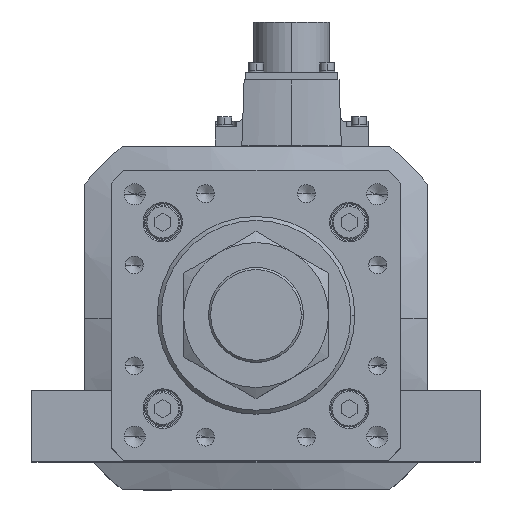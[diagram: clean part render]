
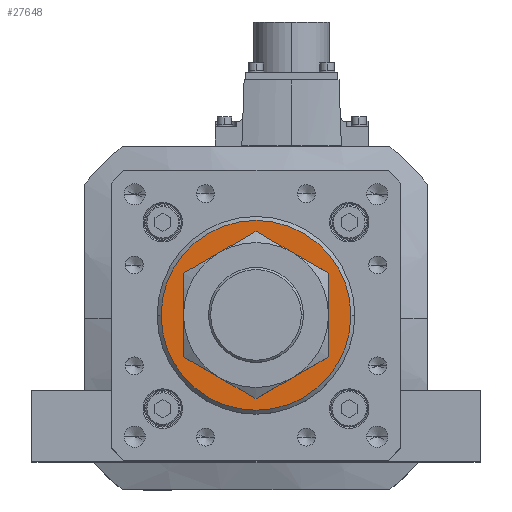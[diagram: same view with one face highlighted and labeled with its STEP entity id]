
A CAD part, top view. The second image highlights one B-rep face of the part: STEP entity #27648.
In plain terms, the highlighted planar face has unit normal (0, 0, 1).
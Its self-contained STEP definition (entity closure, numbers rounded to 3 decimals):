
#1883 = AXIS2_PLACEMENT_3D ( 'NONE', #18810, #4151, #12833 ) ;
#2477 = EDGE_CURVE ( 'NONE', #18252, #29847, #23302, .T. ) ;
#3389 = CARTESIAN_POINT ( 'NONE',  ( 0., 0., 346. ) ) ;
#4151 = DIRECTION ( 'NONE',  ( 0., 0., 1. ) ) ;
#5309 = EDGE_LOOP ( 'NONE', ( #25981, #28140 ) ) ;
#6705 = AXIS2_PLACEMENT_3D ( 'NONE', #3389, #30119, #32705 ) ;
#7118 = FACE_OUTER_BOUND ( 'NONE', #5309, .T. ) ;
#9015 = EDGE_LOOP ( 'NONE', ( #34753, #22928 ) ) ;
#11152 = CIRCLE ( 'NONE', #1883, 36. ) ;
#11172 = VERTEX_POINT ( 'NONE', #11717 ) ;
#11453 = CARTESIAN_POINT ( 'NONE',  ( 23., 0., 346. ) ) ;
#11717 = CARTESIAN_POINT ( 'NONE',  ( -36., 0., 346. ) ) ;
#12833 = DIRECTION ( 'NONE',  ( 1., 0., 0. ) ) ;
#13364 = DIRECTION ( 'NONE',  ( 1., 0., 0. ) ) ;
#14859 = VERTEX_POINT ( 'NONE', #29777 ) ;
#16081 = CARTESIAN_POINT ( 'NONE',  ( 0., 0., 346. ) ) ;
#18252 = VERTEX_POINT ( 'NONE', #20699 ) ;
#18810 = CARTESIAN_POINT ( 'NONE',  ( 0., 0., 346. ) ) ;
#19426 = DIRECTION ( 'NONE',  ( 1., 0., 0. ) ) ;
#20699 = CARTESIAN_POINT ( 'NONE',  ( -23., 0., 346. ) ) ;
#20792 = DIRECTION ( 'NONE',  ( 0., 0., 1. ) ) ;
#22525 = DIRECTION ( 'NONE',  ( 0., 0., -1. ) ) ;
#22928 = ORIENTED_EDGE ( 'NONE', *, *, #2477, .T. ) ;
#23121 = EDGE_CURVE ( 'NONE', #11172, #14859, #11152, .T. ) ;
#23302 = CIRCLE ( 'NONE', #34672, 23. ) ;
#23650 = CARTESIAN_POINT ( 'NONE',  ( 0., 0., 346. ) ) ;
#25820 = EDGE_CURVE ( 'NONE', #29847, #18252, #34137, .T. ) ;
#25981 = ORIENTED_EDGE ( 'NONE', *, *, #23121, .T. ) ;
#26178 = AXIS2_PLACEMENT_3D ( 'NONE', #23650, #20792, #38146 ) ;
#26364 = AXIS2_PLACEMENT_3D ( 'NONE', #34196, #22525, #19426 ) ;
#27073 = FACE_BOUND ( 'NONE', #9015, .T. ) ;
#27648 = ADVANCED_FACE ( 'NONE', ( #27073, #7118 ), #29394, .T. ) ;
#28140 = ORIENTED_EDGE ( 'NONE', *, *, #35271, .T. ) ;
#29394 = PLANE ( 'NONE',  #26178 ) ;
#29777 = CARTESIAN_POINT ( 'NONE',  ( 36., 0., 346. ) ) ;
#29847 = VERTEX_POINT ( 'NONE', #11453 ) ;
#30119 = DIRECTION ( 'NONE',  ( 0., 0., 1. ) ) ;
#30889 = DIRECTION ( 'NONE',  ( 0., 0., -1. ) ) ;
#32227 = CIRCLE ( 'NONE', #6705, 36. ) ;
#32705 = DIRECTION ( 'NONE',  ( 1., 0., 0. ) ) ;
#34137 = CIRCLE ( 'NONE', #26364, 23. ) ;
#34196 = CARTESIAN_POINT ( 'NONE',  ( 0., 0., 346. ) ) ;
#34672 = AXIS2_PLACEMENT_3D ( 'NONE', #16081, #30889, #13364 ) ;
#34753 = ORIENTED_EDGE ( 'NONE', *, *, #25820, .T. ) ;
#35271 = EDGE_CURVE ( 'NONE', #14859, #11172, #32227, .T. ) ;
#38146 = DIRECTION ( 'NONE',  ( 1., 0., 0. ) ) ;
